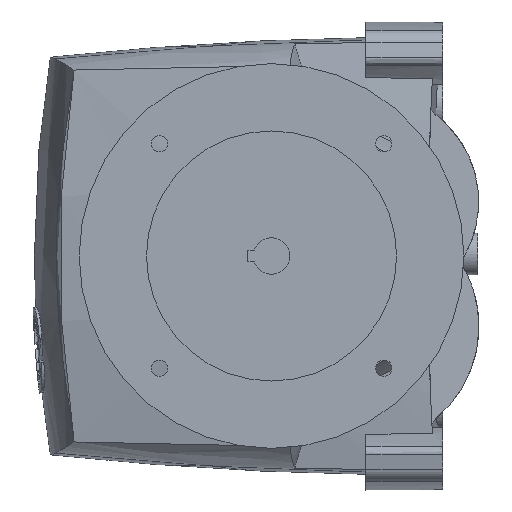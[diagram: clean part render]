
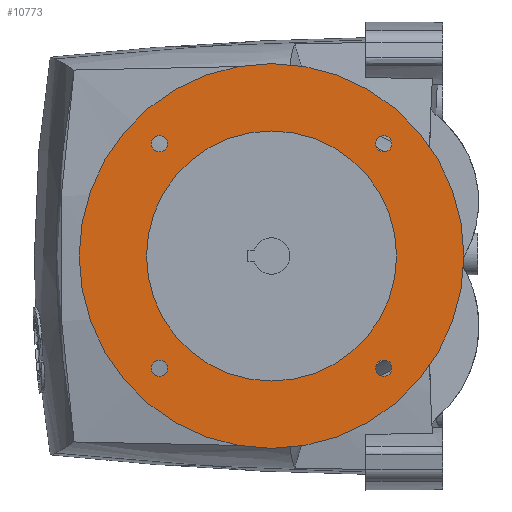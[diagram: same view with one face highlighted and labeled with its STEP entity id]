
A CAD part, left-side view. The second image highlights one B-rep face of the part: STEP entity #10773.
In plain terms, the highlighted planar face has unit normal (-1, 0, 0).
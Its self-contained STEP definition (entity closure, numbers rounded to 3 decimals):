
#1903=CARTESIAN_POINT('',(-157.,54.664,58.336));
#1904=DIRECTION('',(1.,0.,0.));
#1905=DIRECTION('',(0.,-1.,0.));
#1906=AXIS2_PLACEMENT_3D('',#1903,#1904,#1905);
#1908=CARTESIAN_POINT('',(-157.,54.664,58.336));
#1909=DIRECTION('',(1.,0.,0.));
#1910=DIRECTION('',(0.,1.,0.));
#1911=AXIS2_PLACEMENT_3D('',#1908,#1909,#1910);
#1913=CARTESIAN_POINT('',(-157.,171.336,-58.336));
#1914=DIRECTION('',(1.,0.,0.));
#1915=DIRECTION('',(0.,-1.,0.));
#1916=AXIS2_PLACEMENT_3D('',#1913,#1914,#1915);
#1918=CARTESIAN_POINT('',(-157.,171.336,-58.336));
#1919=DIRECTION('',(1.,0.,0.));
#1920=DIRECTION('',(0.,1.,0.));
#1921=AXIS2_PLACEMENT_3D('',#1918,#1919,#1920);
#1923=CARTESIAN_POINT('',(-157.,171.336,58.336));
#1924=DIRECTION('',(1.,0.,0.));
#1925=DIRECTION('',(0.,-1.,0.));
#1926=AXIS2_PLACEMENT_3D('',#1923,#1924,#1925);
#1928=CARTESIAN_POINT('',(-157.,171.336,58.336));
#1929=DIRECTION('',(1.,0.,0.));
#1930=DIRECTION('',(0.,1.,0.));
#1931=AXIS2_PLACEMENT_3D('',#1928,#1929,#1930);
#1933=CARTESIAN_POINT('',(-157.,54.664,-58.336));
#1934=DIRECTION('',(1.,0.,0.));
#1935=DIRECTION('',(0.,-1.,0.));
#1936=AXIS2_PLACEMENT_3D('',#1933,#1934,#1935);
#1938=CARTESIAN_POINT('',(-157.,54.664,-58.336));
#1939=DIRECTION('',(1.,0.,0.));
#1940=DIRECTION('',(0.,1.,0.));
#1941=AXIS2_PLACEMENT_3D('',#1938,#1939,#1940);
#1943=CARTESIAN_POINT('',(-157.,113.,0.));
#1944=DIRECTION('',(-1.,0.,0.));
#1945=DIRECTION('',(0.,1.,0.));
#1946=AXIS2_PLACEMENT_3D('',#1943,#1944,#1945);
#1948=CARTESIAN_POINT('',(-157.,113.,0.));
#1949=DIRECTION('',(-1.,0.,0.));
#1950=DIRECTION('',(0.,-1.,0.));
#1951=AXIS2_PLACEMENT_3D('',#1948,#1949,#1950);
#1953=CARTESIAN_POINT('',(-157.,113.,0.));
#1954=DIRECTION('',(1.,0.,0.));
#1955=DIRECTION('',(0.,-1.,0.));
#1956=AXIS2_PLACEMENT_3D('',#1953,#1954,#1955);
#1958=CARTESIAN_POINT('',(-157.,113.,0.));
#1959=DIRECTION('',(1.,0.,0.));
#1960=DIRECTION('',(0.,1.,0.));
#1961=AXIS2_PLACEMENT_3D('',#1958,#1959,#1960);
#9055=CARTESIAN_POINT('',(-157.,48.,0.));
#9056=CARTESIAN_POINT('',(-157.,178.,0.));
#9057=VERTEX_POINT('',#9055);
#9058=VERTEX_POINT('',#9056);
#9075=CARTESIAN_POINT('',(-157.,213.,0.));
#9076=CARTESIAN_POINT('',(-157.,13.,0.));
#9077=VERTEX_POINT('',#9075);
#9078=VERTEX_POINT('',#9076);
#9414=CARTESIAN_POINT('',(-157.,167.086,58.336));
#9415=CARTESIAN_POINT('',(-157.,175.586,58.336));
#9416=VERTEX_POINT('',#9414);
#9417=VERTEX_POINT('',#9415);
#9418=CARTESIAN_POINT('',(-157.,50.414,58.336));
#9419=CARTESIAN_POINT('',(-157.,58.914,58.336));
#9420=VERTEX_POINT('',#9418);
#9421=VERTEX_POINT('',#9419);
#9422=CARTESIAN_POINT('',(-157.,50.414,-58.336));
#9423=CARTESIAN_POINT('',(-157.,58.914,-58.336));
#9424=VERTEX_POINT('',#9422);
#9425=VERTEX_POINT('',#9423);
#9426=CARTESIAN_POINT('',(-157.,167.086,-58.336));
#9427=CARTESIAN_POINT('',(-157.,175.586,-58.336));
#9428=VERTEX_POINT('',#9426);
#9429=VERTEX_POINT('',#9427);
#10733=CARTESIAN_POINT('',(-157.,113.,0.));
#10734=DIRECTION('',(-1.,0.,0.));
#10735=DIRECTION('',(0.,1.,0.));
#10736=AXIS2_PLACEMENT_3D('',#10733,#10734,#10735);
#10737=PLANE('',#10736);
#10739=ORIENTED_EDGE('',*,*,#10738,.F.);
#10741=ORIENTED_EDGE('',*,*,#10740,.F.);
#10742=EDGE_LOOP('',(#10739,#10741));
#10743=FACE_OUTER_BOUND('',#10742,.F.);
#10744=ORIENTED_EDGE('',*,*,#10723,.F.);
#10746=ORIENTED_EDGE('',*,*,#10745,.F.);
#10747=EDGE_LOOP('',(#10744,#10746));
#10748=FACE_BOUND('',#10747,.F.);
#10750=ORIENTED_EDGE('',*,*,#10749,.F.);
#10752=ORIENTED_EDGE('',*,*,#10751,.F.);
#10753=EDGE_LOOP('',(#10750,#10752));
#10754=FACE_BOUND('',#10753,.F.);
#10756=ORIENTED_EDGE('',*,*,#10755,.F.);
#10758=ORIENTED_EDGE('',*,*,#10757,.F.);
#10759=EDGE_LOOP('',(#10756,#10758));
#10760=FACE_BOUND('',#10759,.F.);
#10762=ORIENTED_EDGE('',*,*,#10761,.F.);
#10764=ORIENTED_EDGE('',*,*,#10763,.F.);
#10765=EDGE_LOOP('',(#10762,#10764));
#10766=FACE_BOUND('',#10765,.F.);
#10768=ORIENTED_EDGE('',*,*,#10767,.F.);
#10770=ORIENTED_EDGE('',*,*,#10769,.F.);
#10771=EDGE_LOOP('',(#10768,#10770));
#10772=FACE_BOUND('',#10771,.F.);
#10773=ADVANCED_FACE('',(#10743,#10748,#10754,#10760,#10766,#10772),#10737,.T.);
#1907=CIRCLE('',#1906,4.25);
#1912=CIRCLE('',#1911,4.25);
#1917=CIRCLE('',#1916,4.25);
#1922=CIRCLE('',#1921,4.25);
#1927=CIRCLE('',#1926,4.25);
#1932=CIRCLE('',#1931,4.25);
#1937=CIRCLE('',#1936,4.25);
#1942=CIRCLE('',#1941,4.25);
#1947=CIRCLE('',#1946,100.);
#1952=CIRCLE('',#1951,100.);
#1957=CIRCLE('',#1956,65.);
#1962=CIRCLE('',#1961,65.);
#10723=EDGE_CURVE('',#9420,#9421,#1907,.T.);
#10738=EDGE_CURVE('',#9077,#9078,#1947,.T.);
#10740=EDGE_CURVE('',#9078,#9077,#1952,.T.);
#10745=EDGE_CURVE('',#9421,#9420,#1912,.T.);
#10749=EDGE_CURVE('',#9428,#9429,#1917,.T.);
#10751=EDGE_CURVE('',#9429,#9428,#1922,.T.);
#10755=EDGE_CURVE('',#9416,#9417,#1927,.T.);
#10757=EDGE_CURVE('',#9417,#9416,#1932,.T.);
#10761=EDGE_CURVE('',#9424,#9425,#1937,.T.);
#10763=EDGE_CURVE('',#9425,#9424,#1942,.T.);
#10767=EDGE_CURVE('',#9057,#9058,#1957,.T.);
#10769=EDGE_CURVE('',#9058,#9057,#1962,.T.);
